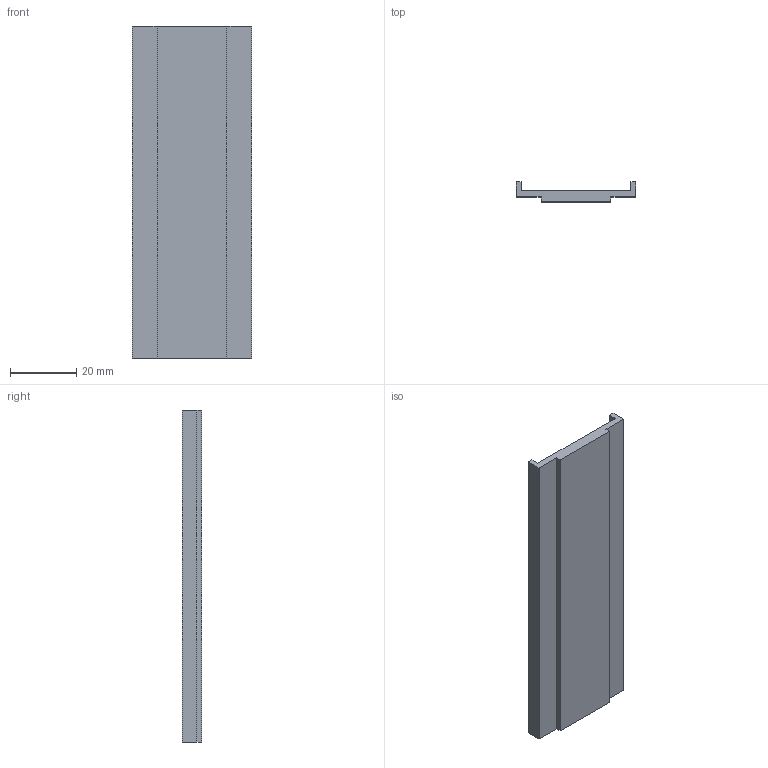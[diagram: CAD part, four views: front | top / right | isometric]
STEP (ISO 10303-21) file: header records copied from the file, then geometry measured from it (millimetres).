
FILE_DESCRIPTION (( 'STEP AP203' ), '1' );
FILE_NAME ('112.101.004.STEP', '2017-07-04T12:49:10', ( 'Localadmin' ), ( 'Microsoft' ), 'SwSTEP 2.0', 'SolidWorks 2016', '' );
FILE_SCHEMA (( 'CONFIG_CONTROL_DESIGN' ));
Length unit declared in the file: millimetre
Products named in the file (1): 112.101.004
Bounding box: 36 x 6 x 100 mm (x, y, z)
Volume: 11100 mm3; surface area: 9122 mm2
Topology: 1 solids, 1 shells, 14 faces, 36 edges, 24 vertices
Faces by surface type: plane 14
Entity records: 497 total; most frequent: CARTESIAN_POINT 75, ORIENTED_EDGE 72, DIRECTION 66, EDGE_CURVE 36, LINE 36, VECTOR 36, VERTEX_POINT 24, AXIS2_PLACEMENT_3D 15
